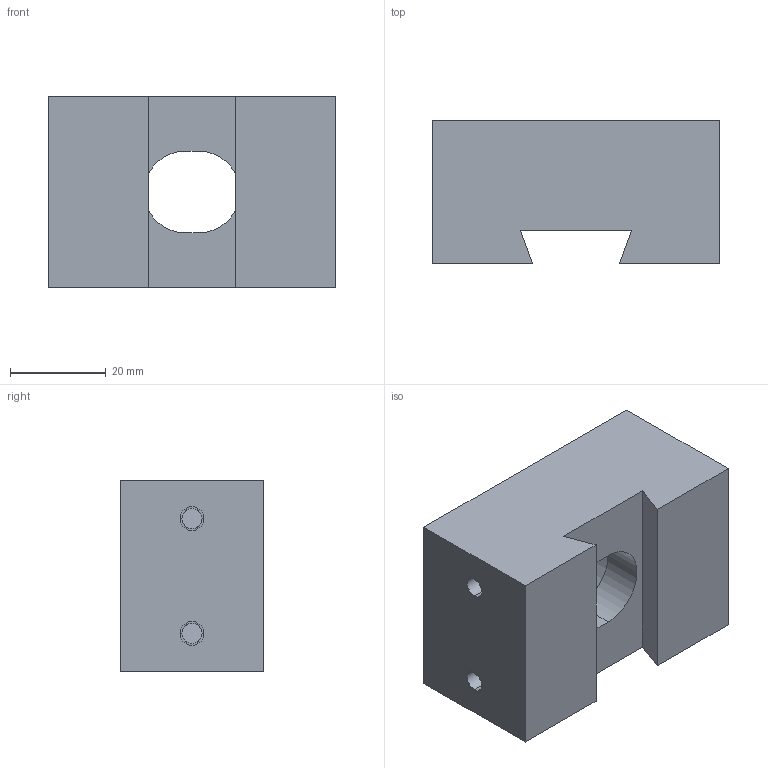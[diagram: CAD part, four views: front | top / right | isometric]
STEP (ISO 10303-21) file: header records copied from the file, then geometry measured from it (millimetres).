
FILE_DESCRIPTION((''),'2;1');
FILE_NAME('FG_WH_WEDCL_SSTJ3NP001','2026-06-04T17:06:20',('Admin'),(''),'CREO PARAMETRIC BY PTC INC, 2025010','CREO PARAMETRIC BY PTC INC, 2025010','');
FILE_SCHEMA(('CONFIG_CONTROL_DESIGN'));
Length unit declared in the file: metre
Products named in the file (1): FG_WH_WEDCL_SSTJ3NP001
Bounding box: 60 x 30 x 40 mm (x, y, z)
Volume: 54429.3 mm3; surface area: 13726.3 mm2
Topology: 1 solids, 5 shells, 43 faces, 124 edges, 88 vertices
Faces by surface type: plane 23, cylinder 20
Entity records: 1633 total; most frequent: CARTESIAN_POINT 472, DIRECTION 224, ORIENTED_EDGE 216, EDGE_CURVE 124, VERTEX_POINT 88, AXIS2_PLACEMENT_3D 80, VECTOR 64, LINE 64
